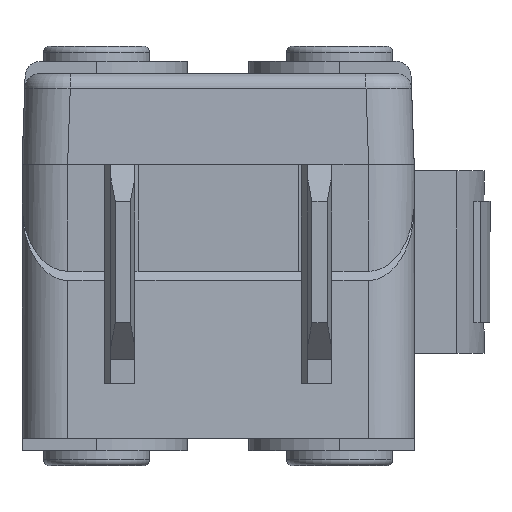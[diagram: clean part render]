
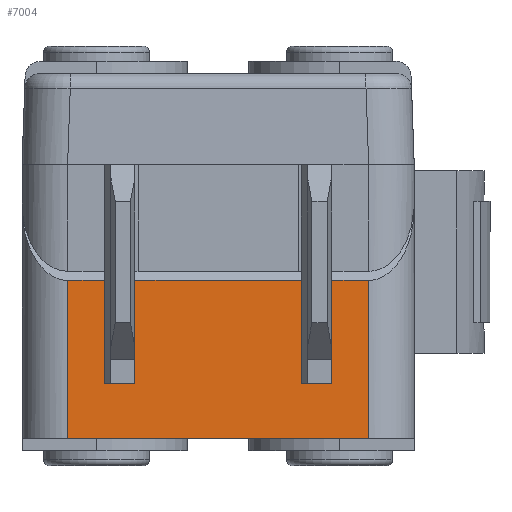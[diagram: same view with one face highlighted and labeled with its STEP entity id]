
A CAD part, front view. The second image highlights one B-rep face of the part: STEP entity #7004.
In plain terms, the highlighted planar face has unit normal (0, -0.999, 0.038).
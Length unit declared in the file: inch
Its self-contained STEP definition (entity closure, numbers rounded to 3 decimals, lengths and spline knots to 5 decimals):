
#1638=DIRECTION('',(1.,0.,0.));
#1639=VECTOR('',#1638,9.90018);
#1640=CARTESIAN_POINT('',(1.49991,0.,
-9.));
#1641=LINE('',#1640,#1639);
#2108=DIRECTION('',(-1.,0.,0.));
#2109=VECTOR('',#2108,1.215);
#2110=CARTESIAN_POINT('',(11.4,0.2,-3.8));
#2111=LINE('',#2110,#2109);
#2112=DIRECTION('',(-1.,0.,0.));
#2113=VECTOR('',#2112,5.47);
#2114=CARTESIAN_POINT('',(9.185,0.2,-3.8));
#2115=LINE('',#2114,#2113);
#2120=DIRECTION('',(-1.,0.,0.));
#2121=VECTOR('',#2120,1.215);
#2122=CARTESIAN_POINT('',(2.715,0.2,-3.8));
#2123=LINE('',#2122,#2121);
#2209=DIRECTION('',(0.,0.038,0.999));
#2210=VECTOR('',#2209,3.40251);
#2211=CARTESIAN_POINT('',(2.715,0.06923,-7.2));
#2212=LINE('',#2211,#2210);
#2273=DIRECTION('',(0.,-0.038,-0.999));
#2274=VECTOR('',#2273,3.40251);
#2275=CARTESIAN_POINT('',(10.185,0.2,-3.8));
#2276=LINE('',#2275,#2274);
#2403=DIRECTION('',(0.,0.038,0.999));
#2404=VECTOR('',#2403,3.40251);
#2405=CARTESIAN_POINT('',(9.185,0.06923,-7.2));
#2406=LINE('',#2405,#2404);
#2559=DIRECTION('',(0.,-0.038,-0.999));
#2560=VECTOR('',#2559,3.40251);
#2561=CARTESIAN_POINT('',(3.715,0.2,-3.8));
#2562=LINE('',#2561,#2560);
#2625=DIRECTION('',(1.,0.,0.));
#2626=VECTOR('',#2625,1.);
#2627=CARTESIAN_POINT('',(9.185,0.06923,-7.2));
#2628=LINE('',#2627,#2626);
#2723=DIRECTION('',(0.,0.038,0.999));
#2724=VECTOR('',#2723,5.20385);
#2725=CARTESIAN_POINT('',(11.40009,0.,
-9.));
#2726=LINE('',#2725,#2724);
#2745=DIRECTION('',(0.,-0.038,-0.999));
#2746=VECTOR('',#2745,5.20385);
#2747=CARTESIAN_POINT('',(1.5,0.2,-3.8));
#2748=LINE('',#2747,#2746);
#2749=DIRECTION('',(-1.,0.,0.));
#2750=VECTOR('',#2749,1.);
#2751=CARTESIAN_POINT('',(3.715,0.06923,-7.2));
#2752=LINE('',#2751,#2750);
#2937=CARTESIAN_POINT('',(3.715,0.06923,-7.2));
#2938=CARTESIAN_POINT('',(2.715,0.06923,-7.2));
#2939=VERTEX_POINT('',#2937);
#2940=VERTEX_POINT('',#2938);
#2943=CARTESIAN_POINT('',(3.715,0.2,-3.8));
#2944=VERTEX_POINT('',#2943);
#2945=CARTESIAN_POINT('',(9.185,0.2,-3.8));
#2946=VERTEX_POINT('',#2945);
#2947=CARTESIAN_POINT('',(9.185,0.06923,-7.2));
#2948=VERTEX_POINT('',#2947);
#2949=CARTESIAN_POINT('',(10.185,0.06923,-7.2));
#2950=VERTEX_POINT('',#2949);
#2951=CARTESIAN_POINT('',(10.185,0.2,-3.8));
#2952=VERTEX_POINT('',#2951);
#2953=CARTESIAN_POINT('',(11.4,0.2,-3.8));
#2954=VERTEX_POINT('',#2953);
#2955=CARTESIAN_POINT('',(11.40009,0.,
-9.));
#2956=VERTEX_POINT('',#2955);
#2957=CARTESIAN_POINT('',(1.49991,0.,
-9.));
#2958=VERTEX_POINT('',#2957);
#2959=CARTESIAN_POINT('',(1.5,0.2,-3.8));
#2960=VERTEX_POINT('',#2959);
#2961=CARTESIAN_POINT('',(2.715,0.2,-3.8));
#2962=VERTEX_POINT('',#2961);
#6981=CARTESIAN_POINT('',(6.45,0.1,-6.4));
#6982=DIRECTION('',(0.,0.999,-0.038));
#6983=DIRECTION('',(0.,0.038,0.999));
#6984=AXIS2_PLACEMENT_3D('',#6981,#6982,#6983);
#6985=PLANE('',#6984);
#6986=ORIENTED_EDGE('',*,*,#6915,.F.);
#6987=ORIENTED_EDGE('',*,*,#6401,.F.);
#6988=ORIENTED_EDGE('',*,*,#6733,.F.);
#6990=ORIENTED_EDGE('',*,*,#6989,.T.);
#6991=ORIENTED_EDGE('',*,*,#6555,.F.);
#6992=ORIENTED_EDGE('',*,*,#6393,.F.);
#6994=ORIENTED_EDGE('',*,*,#6993,.F.);
#6995=ORIENTED_EDGE('',*,*,#5772,.F.);
#6997=ORIENTED_EDGE('',*,*,#6996,.F.);
#6998=ORIENTED_EDGE('',*,*,#6409,.F.);
#6999=ORIENTED_EDGE('',*,*,#6475,.F.);
#7001=ORIENTED_EDGE('',*,*,#7000,.F.);
#7002=EDGE_LOOP('',(#6986,#6987,#6988,#6990,#6991,#6992,#6994,#6995,#6997,#6998,
#6999,#7001));
#7003=FACE_OUTER_BOUND('',#7002,.F.);
#7004=ADVANCED_FACE('',(#7003),#6985,.F.);
#5772=EDGE_CURVE('',#2958,#2956,#1641,.T.);
#6393=EDGE_CURVE('',#2954,#2952,#2111,.T.);
#6401=EDGE_CURVE('',#2946,#2944,#2115,.T.);
#6409=EDGE_CURVE('',#2962,#2960,#2123,.T.);
#6475=EDGE_CURVE('',#2940,#2962,#2212,.T.);
#6555=EDGE_CURVE('',#2952,#2950,#2276,.T.);
#6733=EDGE_CURVE('',#2948,#2946,#2406,.T.);
#6915=EDGE_CURVE('',#2944,#2939,#2562,.T.);
#6989=EDGE_CURVE('',#2948,#2950,#2628,.T.);
#6993=EDGE_CURVE('',#2956,#2954,#2726,.T.);
#6996=EDGE_CURVE('',#2960,#2958,#2748,.T.);
#7000=EDGE_CURVE('',#2939,#2940,#2752,.T.);
